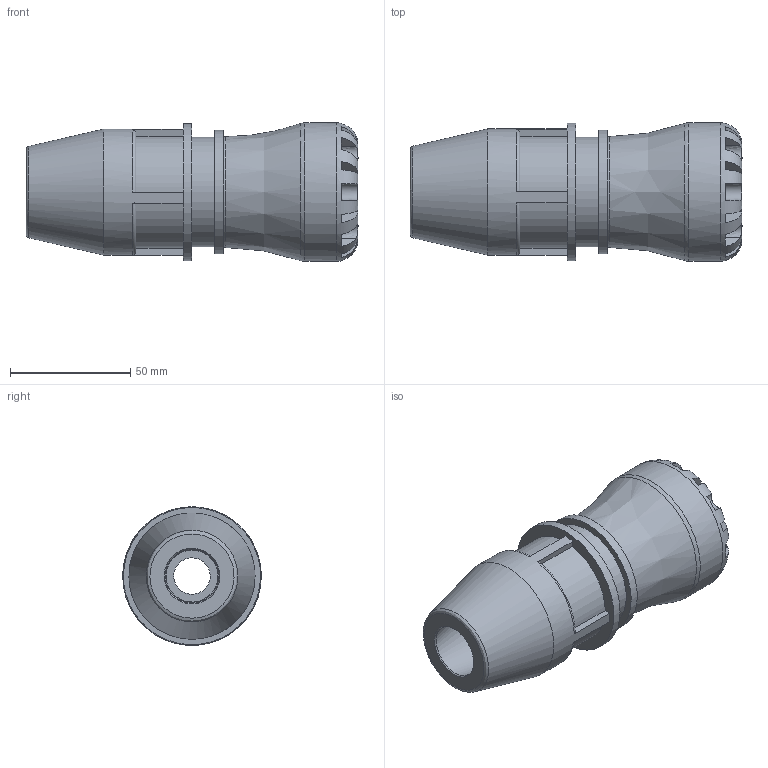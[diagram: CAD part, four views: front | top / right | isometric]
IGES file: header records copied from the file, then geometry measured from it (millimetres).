
Global section: file name: 100170032022; native system: Autodesk Inventor 2019; preprocessor: unknown; author: KIM; date: 20230831.103340; units: millimetre
Bounding box: 138 x 57.6 x 57.52 mm (x, y, z)
Volume: 181393.4 mm3; surface area: 41752.8 mm2
Topology: 1 solids, 1 shells, 110 faces, 296 edges, 195 vertices
Faces by surface type: bspline 110
